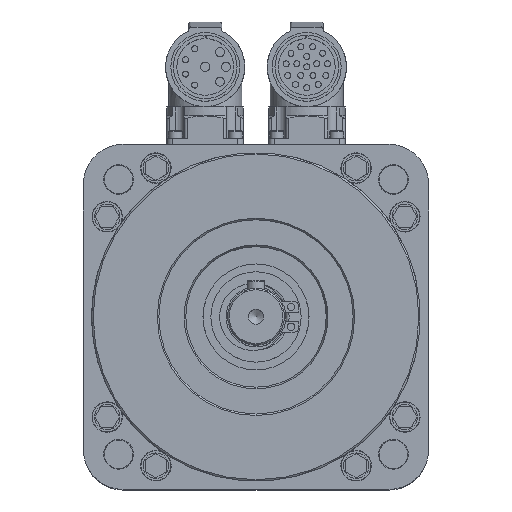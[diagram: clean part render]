
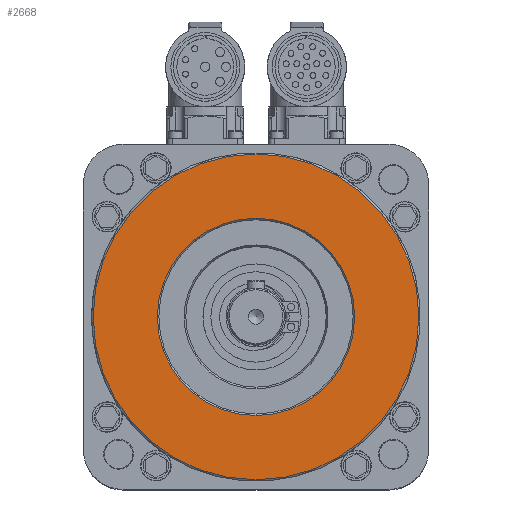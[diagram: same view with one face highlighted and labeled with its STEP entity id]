
A CAD part, top view. The second image highlights one B-rep face of the part: STEP entity #2668.
In plain terms, the highlighted planar face has unit normal (0, 0, 1).
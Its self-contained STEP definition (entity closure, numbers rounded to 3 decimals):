
#2668 = ADVANCED_FACE( '', ( #6038, #6039 ), #6040, .F. );
#6038 = FACE_BOUND( '', #12317, .T. );
#6039 = FACE_OUTER_BOUND( '', #12318, .T. );
#6040 = PLANE( '', #12319 );
#12317 = EDGE_LOOP( '', ( #22960 ) );
#12318 = EDGE_LOOP( '', ( #22961 ) );
#12319 = AXIS2_PLACEMENT_3D( '', #22962, #22963, #22964 );
#22960 = ORIENTED_EDGE( '', *, *, #35719, .T. );
#22961 = ORIENTED_EDGE( '', *, *, #35944, .F. );
#22962 = CARTESIAN_POINT( '', ( 0., 0., 16.5 ) );
#22963 = DIRECTION( '', ( 0., 0., -1. ) );
#22964 = DIRECTION( '', ( -1., 0., 0. ) );
#35719 = EDGE_CURVE( '', #44612, #44612, #44613, .T. );
#35944 = EDGE_CURVE( '', #44959, #44959, #44960, .T. );
#44612 = VERTEX_POINT( '', #57996 );
#44613 = CIRCLE( '', #57997, 33. );
#44959 = VERTEX_POINT( '', #59083 );
#44960 = CIRCLE( '', #59084, 54.5 );
#57996 = CARTESIAN_POINT( '', ( -33., 0., 16.5 ) );
#57997 = AXIS2_PLACEMENT_3D( '', #73390, #73391, #73392 );
#59083 = CARTESIAN_POINT( '', ( -54.5, 0., 16.5 ) );
#59084 = AXIS2_PLACEMENT_3D( '', #73678, #73679, #73680 );
#73390 = CARTESIAN_POINT( '', ( 0., 0., 16.5 ) );
#73391 = DIRECTION( '', ( 0., 0., -1. ) );
#73392 = DIRECTION( '', ( -1., 0., 0. ) );
#73678 = CARTESIAN_POINT( '', ( 0., 0., 16.5 ) );
#73679 = DIRECTION( '', ( 0., 0., -1. ) );
#73680 = DIRECTION( '', ( -1., 0., 0. ) );
